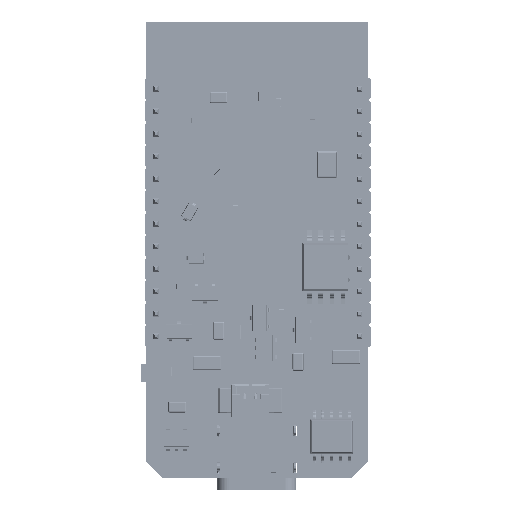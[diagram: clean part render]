
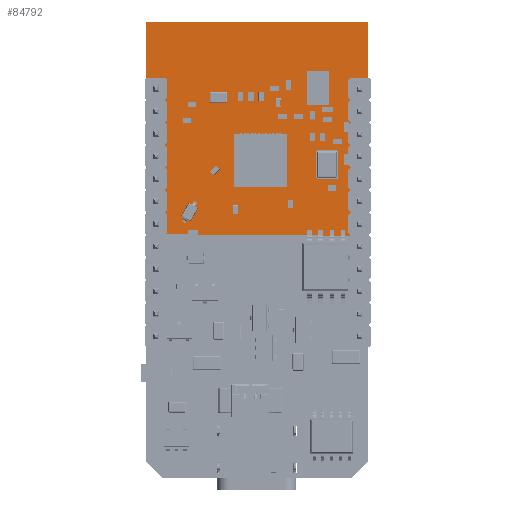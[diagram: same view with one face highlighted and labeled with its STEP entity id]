
A CAD part, top view. The second image highlights one B-rep face of the part: STEP entity #84792.
In plain terms, the highlighted planar face has unit normal (0, 0, 1).
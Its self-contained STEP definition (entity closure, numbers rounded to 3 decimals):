
#6858=FACE_BOUND('',#13295,.T.);
#6859=FACE_BOUND('',#13296,.T.);
#6860=FACE_BOUND('',#13297,.T.);
#6861=FACE_BOUND('',#13298,.T.);
#6862=FACE_BOUND('',#13299,.T.);
#6863=FACE_BOUND('',#13300,.T.);
#6864=FACE_BOUND('',#13301,.T.);
#6865=FACE_BOUND('',#13302,.T.);
#6866=FACE_BOUND('',#13303,.T.);
#6867=FACE_BOUND('',#13304,.T.);
#6868=FACE_BOUND('',#13305,.T.);
#6869=FACE_BOUND('',#13306,.T.);
#6870=FACE_BOUND('',#13307,.T.);
#6871=FACE_BOUND('',#13308,.T.);
#7147=CIRCLE('',#89966,0.55);
#7148=CIRCLE('',#89967,0.55);
#7149=CIRCLE('',#89968,0.55);
#7150=CIRCLE('',#89969,0.55);
#7151=CIRCLE('',#89970,0.55);
#7152=CIRCLE('',#89971,0.55);
#7153=CIRCLE('',#89972,0.55);
#7154=CIRCLE('',#89973,0.55);
#7155=CIRCLE('',#89974,0.55);
#7156=CIRCLE('',#89975,0.55);
#7157=CIRCLE('',#89976,0.55);
#7158=CIRCLE('',#89977,0.55);
#7159=CIRCLE('',#89978,0.55);
#7160=CIRCLE('',#89979,0.55);
#8547=FACE_OUTER_BOUND('',#13294,.T.);
#13294=EDGE_LOOP('',(#57028,#57029,#57030,#57031,#57032,#57033));
#13295=EDGE_LOOP('',(#57034));
#13296=EDGE_LOOP('',(#57035));
#13297=EDGE_LOOP('',(#57036));
#13298=EDGE_LOOP('',(#57037));
#13299=EDGE_LOOP('',(#57038));
#13300=EDGE_LOOP('',(#57039));
#13301=EDGE_LOOP('',(#57040));
#13302=EDGE_LOOP('',(#57041));
#13303=EDGE_LOOP('',(#57042));
#13304=EDGE_LOOP('',(#57043));
#13305=EDGE_LOOP('',(#57044));
#13306=EDGE_LOOP('',(#57045));
#13307=EDGE_LOOP('',(#57046));
#13308=EDGE_LOOP('',(#57047));
#18330=LINE('',#117201,#27533);
#18331=LINE('',#117203,#27534);
#18332=LINE('',#117205,#27535);
#18333=LINE('',#117207,#27536);
#18334=LINE('',#117209,#27537);
#18335=LINE('',#117210,#27538);
#27533=VECTOR('',#95980,1.);
#27534=VECTOR('',#95981,1.);
#27535=VECTOR('',#95982,1.);
#27536=VECTOR('',#95983,1.);
#27537=VECTOR('',#95984,1.);
#27538=VECTOR('',#95985,1.);
#36736=VERTEX_POINT('',#117199);
#36737=VERTEX_POINT('',#117200);
#36738=VERTEX_POINT('',#117202);
#36739=VERTEX_POINT('',#117204);
#36740=VERTEX_POINT('',#117206);
#36741=VERTEX_POINT('',#117208);
#36742=VERTEX_POINT('',#117211);
#36743=VERTEX_POINT('',#117213);
#36744=VERTEX_POINT('',#117215);
#36745=VERTEX_POINT('',#117217);
#36746=VERTEX_POINT('',#117219);
#36747=VERTEX_POINT('',#117221);
#36748=VERTEX_POINT('',#117223);
#36749=VERTEX_POINT('',#117225);
#36750=VERTEX_POINT('',#117227);
#36751=VERTEX_POINT('',#117229);
#36752=VERTEX_POINT('',#117231);
#36753=VERTEX_POINT('',#117233);
#36754=VERTEX_POINT('',#117235);
#36755=VERTEX_POINT('',#117237);
#44667=EDGE_CURVE('',#36736,#36737,#18330,.T.);
#44668=EDGE_CURVE('',#36737,#36738,#18331,.T.);
#44669=EDGE_CURVE('',#36738,#36739,#18332,.T.);
#44670=EDGE_CURVE('',#36739,#36740,#18333,.T.);
#44671=EDGE_CURVE('',#36740,#36741,#18334,.T.);
#44672=EDGE_CURVE('',#36741,#36736,#18335,.T.);
#44673=EDGE_CURVE('',#36742,#36742,#7147,.T.);
#44674=EDGE_CURVE('',#36743,#36743,#7148,.T.);
#44675=EDGE_CURVE('',#36744,#36744,#7149,.T.);
#44676=EDGE_CURVE('',#36745,#36745,#7150,.T.);
#44677=EDGE_CURVE('',#36746,#36746,#7151,.T.);
#44678=EDGE_CURVE('',#36747,#36747,#7152,.T.);
#44679=EDGE_CURVE('',#36748,#36748,#7153,.T.);
#44680=EDGE_CURVE('',#36749,#36749,#7154,.T.);
#44681=EDGE_CURVE('',#36750,#36750,#7155,.T.);
#44682=EDGE_CURVE('',#36751,#36751,#7156,.T.);
#44683=EDGE_CURVE('',#36752,#36752,#7157,.T.);
#44684=EDGE_CURVE('',#36753,#36753,#7158,.T.);
#44685=EDGE_CURVE('',#36754,#36754,#7159,.T.);
#44686=EDGE_CURVE('',#36755,#36755,#7160,.T.);
#57028=ORIENTED_EDGE('',*,*,#44667,.T.);
#57029=ORIENTED_EDGE('',*,*,#44668,.T.);
#57030=ORIENTED_EDGE('',*,*,#44669,.T.);
#57031=ORIENTED_EDGE('',*,*,#44670,.T.);
#57032=ORIENTED_EDGE('',*,*,#44671,.T.);
#57033=ORIENTED_EDGE('',*,*,#44672,.T.);
#57034=ORIENTED_EDGE('',*,*,#44673,.F.);
#57035=ORIENTED_EDGE('',*,*,#44674,.F.);
#57036=ORIENTED_EDGE('',*,*,#44675,.F.);
#57037=ORIENTED_EDGE('',*,*,#44676,.F.);
#57038=ORIENTED_EDGE('',*,*,#44677,.F.);
#57039=ORIENTED_EDGE('',*,*,#44678,.F.);
#57040=ORIENTED_EDGE('',*,*,#44679,.F.);
#57041=ORIENTED_EDGE('',*,*,#44680,.F.);
#57042=ORIENTED_EDGE('',*,*,#44681,.F.);
#57043=ORIENTED_EDGE('',*,*,#44682,.F.);
#57044=ORIENTED_EDGE('',*,*,#44683,.F.);
#57045=ORIENTED_EDGE('',*,*,#44684,.F.);
#57046=ORIENTED_EDGE('',*,*,#44685,.F.);
#57047=ORIENTED_EDGE('',*,*,#44686,.F.);
#81679=PLANE('',#89965);
#84792=ADVANCED_FACE('',(#8547,#6858,#6859,#6860,#6861,#6862,#6863,#6864,
#6865,#6866,#6867,#6868,#6869,#6870,#6871),#81679,.T.);
#89965=AXIS2_PLACEMENT_3D('',#117198,#95978,#95979);
#89966=AXIS2_PLACEMENT_3D('',#117212,#95986,#95987);
#89967=AXIS2_PLACEMENT_3D('',#117214,#95988,#95989);
#89968=AXIS2_PLACEMENT_3D('',#117216,#95990,#95991);
#89969=AXIS2_PLACEMENT_3D('',#117218,#95992,#95993);
#89970=AXIS2_PLACEMENT_3D('',#117220,#95994,#95995);
#89971=AXIS2_PLACEMENT_3D('',#117222,#95996,#95997);
#89972=AXIS2_PLACEMENT_3D('',#117224,#95998,#95999);
#89973=AXIS2_PLACEMENT_3D('',#117226,#96000,#96001);
#89974=AXIS2_PLACEMENT_3D('',#117228,#96002,#96003);
#89975=AXIS2_PLACEMENT_3D('',#117230,#96004,#96005);
#89976=AXIS2_PLACEMENT_3D('',#117232,#96006,#96007);
#89977=AXIS2_PLACEMENT_3D('',#117234,#96008,#96009);
#89978=AXIS2_PLACEMENT_3D('',#117236,#96010,#96011);
#89979=AXIS2_PLACEMENT_3D('',#117238,#96012,#96013);
#95978=DIRECTION('center_axis',(0.,0.,1.));
#95979=DIRECTION('ref_axis',(1.,0.,0.));
#95980=DIRECTION('',(-1.,0.,0.));
#95981=DIRECTION('',(-0.707,-0.707,0.));
#95982=DIRECTION('',(0.707,-0.707,0.));
#95983=DIRECTION('',(0.,-1.,0.));
#95984=DIRECTION('',(1.,-0.008,0.));
#95985=DIRECTION('',(0.,1.,0.));
#95986=DIRECTION('center_axis',(0.,0.,1.));
#95987=DIRECTION('ref_axis',(1.,0.,0.));
#95988=DIRECTION('center_axis',(0.,0.,1.));
#95989=DIRECTION('ref_axis',(1.,0.,0.));
#95990=DIRECTION('center_axis',(0.,0.,1.));
#95991=DIRECTION('ref_axis',(1.,0.,0.));
#95992=DIRECTION('center_axis',(0.,0.,1.));
#95993=DIRECTION('ref_axis',(1.,0.,0.));
#95994=DIRECTION('center_axis',(0.,0.,1.));
#95995=DIRECTION('ref_axis',(1.,0.,0.));
#95996=DIRECTION('center_axis',(0.,0.,1.));
#95997=DIRECTION('ref_axis',(1.,0.,0.));
#95998=DIRECTION('center_axis',(0.,0.,1.));
#95999=DIRECTION('ref_axis',(1.,0.,0.));
#96000=DIRECTION('center_axis',(0.,0.,1.));
#96001=DIRECTION('ref_axis',(1.,0.,0.));
#96002=DIRECTION('center_axis',(0.,0.,1.));
#96003=DIRECTION('ref_axis',(1.,0.,0.));
#96004=DIRECTION('center_axis',(0.,0.,1.));
#96005=DIRECTION('ref_axis',(1.,0.,0.));
#96006=DIRECTION('center_axis',(0.,0.,1.));
#96007=DIRECTION('ref_axis',(1.,0.,0.));
#96008=DIRECTION('center_axis',(0.,0.,1.));
#96009=DIRECTION('ref_axis',(1.,0.,0.));
#96010=DIRECTION('center_axis',(0.,0.,1.));
#96011=DIRECTION('ref_axis',(1.,0.,0.));
#96012=DIRECTION('center_axis',(0.,0.,1.));
#96013=DIRECTION('ref_axis',(1.,0.,0.));
#117198=CARTESIAN_POINT('Origin',(105.26,107.857,0.));
#117199=CARTESIAN_POINT('',(105.26,107.857,0.));
#117200=CARTESIAN_POINT('',(80.135,107.857,0.));
#117201=CARTESIAN_POINT('',(105.26,107.857,0.));
#117202=CARTESIAN_POINT('',(80.11,107.832,0.));
#117203=CARTESIAN_POINT('',(80.135,107.857,0.));
#117204=CARTESIAN_POINT('',(80.13,107.812,0.));
#117205=CARTESIAN_POINT('',(80.11,107.832,0.));
#117206=CARTESIAN_POINT('',(80.13,83.906,0.));
#117207=CARTESIAN_POINT('',(80.13,107.812,0.));
#117208=CARTESIAN_POINT('',(105.26,83.703,0.));
#117209=CARTESIAN_POINT('',(80.13,83.906,0.));
#117210=CARTESIAN_POINT('',(105.26,83.703,0.));
#117211=CARTESIAN_POINT('',(80.821,100.416,0.));
#117212=CARTESIAN_POINT('Origin',(81.371,100.416,0.));
#117213=CARTESIAN_POINT('',(80.821,97.876,0.));
#117214=CARTESIAN_POINT('Origin',(81.371,97.876,0.));
#117215=CARTESIAN_POINT('',(80.821,92.796,0.));
#117216=CARTESIAN_POINT('Origin',(81.371,92.796,0.));
#117217=CARTESIAN_POINT('',(80.821,95.336,0.));
#117218=CARTESIAN_POINT('Origin',(81.371,95.336,0.));
#117219=CARTESIAN_POINT('',(80.821,85.176,0.));
#117220=CARTESIAN_POINT('Origin',(81.371,85.176,0.));
#117221=CARTESIAN_POINT('',(80.821,87.716,0.));
#117222=CARTESIAN_POINT('Origin',(81.371,87.716,0.));
#117223=CARTESIAN_POINT('',(80.821,90.256,0.));
#117224=CARTESIAN_POINT('Origin',(81.371,90.256,0.));
#117225=CARTESIAN_POINT('',(103.731,97.876,0.));
#117226=CARTESIAN_POINT('Origin',(104.281,97.876,0.));
#117227=CARTESIAN_POINT('',(103.731,95.336,0.));
#117228=CARTESIAN_POINT('Origin',(104.281,95.336,0.));
#117229=CARTESIAN_POINT('',(103.731,92.796,0.));
#117230=CARTESIAN_POINT('Origin',(104.281,92.796,0.));
#117231=CARTESIAN_POINT('',(103.731,85.176,0.));
#117232=CARTESIAN_POINT('Origin',(104.281,85.176,0.));
#117233=CARTESIAN_POINT('',(103.731,87.716,0.));
#117234=CARTESIAN_POINT('Origin',(104.281,87.716,0.));
#117235=CARTESIAN_POINT('',(103.731,90.256,0.));
#117236=CARTESIAN_POINT('Origin',(104.281,90.256,0.));
#117237=CARTESIAN_POINT('',(103.731,100.416,0.));
#117238=CARTESIAN_POINT('Origin',(104.281,100.416,0.));
